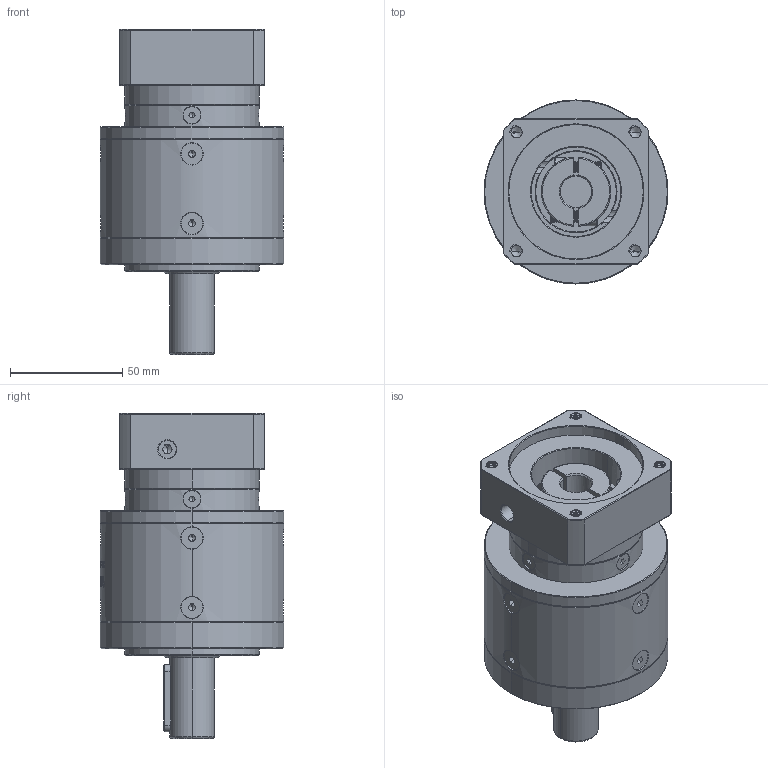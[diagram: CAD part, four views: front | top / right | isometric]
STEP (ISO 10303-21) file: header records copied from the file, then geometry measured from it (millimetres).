
FILE_DESCRIPTION (( 'STEP AP214' ), '1' );
FILE_NAME ('ZE80-D20-L2-14-60-75-M6.step', '2022-05-08T06:00:15', ( '' ), ( 'Microsoft' ), 'SwSTEP 2.0', 'SolidWorks 2016', '' );
FILE_SCHEMA (( 'AUTOMOTIVE_DESIGN' ));
Length unit declared in the file: millimetre
Products named in the file (1): ZE80-D20-L2-14-60-75-M6
Bounding box: 82 x 82 x 145 mm (x, y, z)
Volume: 455487 mm3; surface area: 67375 mm2
Topology: 18 solids, 18 shells, 2136 faces, 5605 edges, 3561 vertices
Faces by surface type: plane 948, cylinder 521, bspline 340, cone 313, torus 14
Entity records: 121736 total; most frequent: CARTESIAN_POINT 49858, ORIENTED_EDGE 11118, DIRECTION 8654, EDGE_CURVE 5559, VERTEX_POINT 3561, LINE 2966, VECTOR 2966, AXIS2_PLACEMENT_3D 2844
